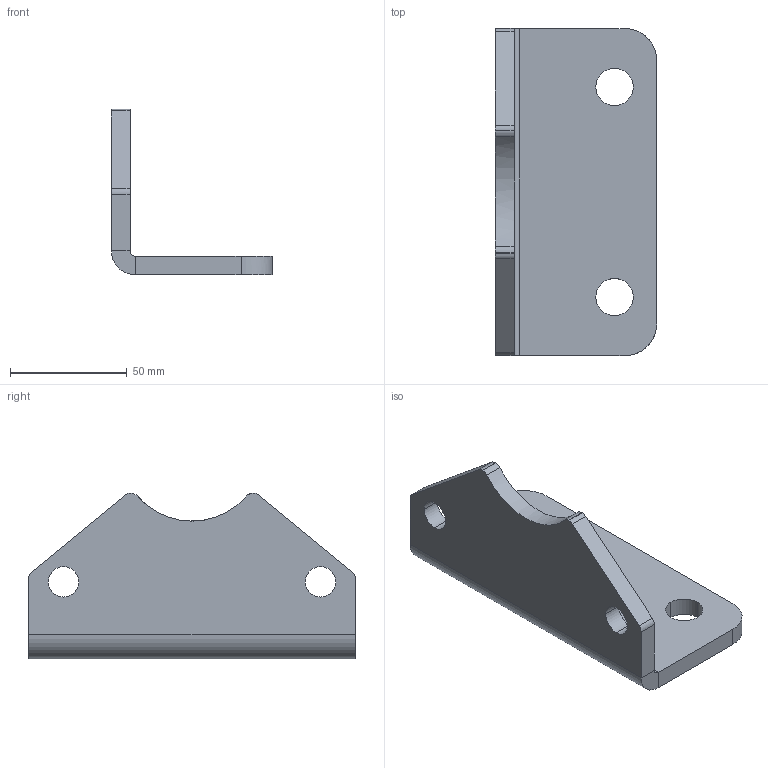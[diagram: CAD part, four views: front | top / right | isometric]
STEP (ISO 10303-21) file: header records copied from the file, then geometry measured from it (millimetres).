
FILE_DESCRIPTION(('CATIA V5 STEP Exchange'),'2;1');
FILE_NAME('D:\stp file for catalog\BAST-LB\LB 125.stp','2018-06-13T05:27:36+00:00',('none'),('none'),'CATIA Version 5-6 Release 2016','CATIA V5 STEP AP203','none');
FILE_SCHEMA(('CONFIG_CONTROL_DESIGN'));
Length unit declared in the file: millimetre
Products named in the file (1): LB-125-00
Bounding box: 69 x 140 x 71 mm (x, y, z)
Volume: 123671.7 mm3; surface area: 36284.3 mm2
Topology: 1 solids, 1 shells, 42 faces, 112 edges, 72 vertices
Faces by surface type: cylinder 27, plane 15
Entity records: 1303 total; most frequent: CARTESIAN_POINT 241, ORIENTED_EDGE 224, DIRECTION 176, EDGE_CURVE 112, AXIS2_PLACEMENT_3D 85, VERTEX_POINT 72, VECTOR 58, LINE 58
